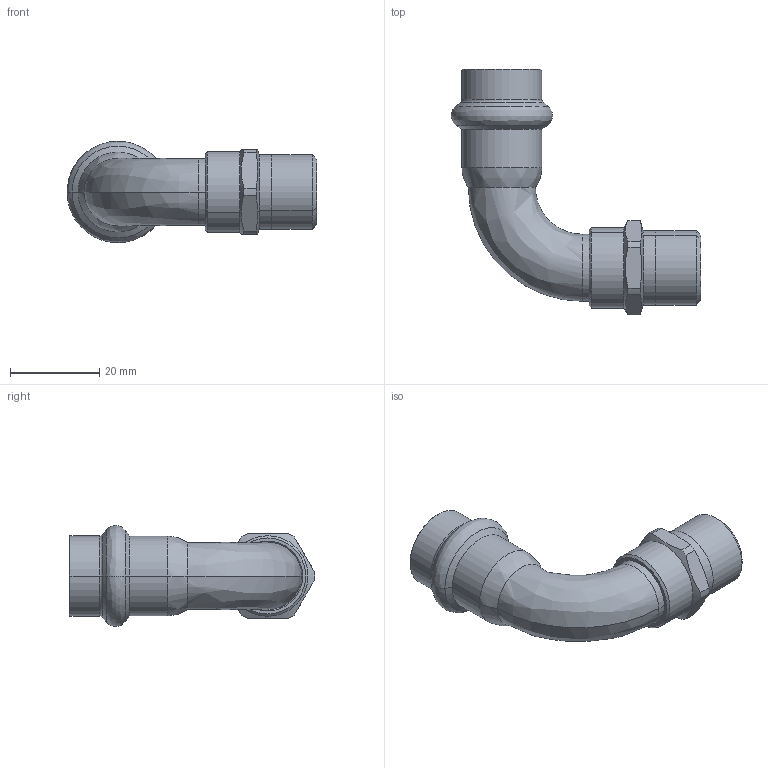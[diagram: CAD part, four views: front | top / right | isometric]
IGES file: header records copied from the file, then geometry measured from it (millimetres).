
Start section: Elysium IGES Interface
Global section: file name: C:\3d modellen sudo\C-Pr VP\SP8092GV\8092GVW1538.igs; native system: CoCreate Modeling 17.00A  17-Jun-2010; preprocessor: CoCreate IGES_3D V2.2; author: Unknown; organization: Unknown; date: 20130305.111929; units: millimetre
Bounding box: 55.84 x 54.98 x 22.67 mm (x, y, z)
Volume: 7315.8 mm3; surface area: 8358 mm2
Topology: 1 solids, 1 shells, 80 faces, 176 edges, 102 vertices
Faces by surface type: bspline 80
